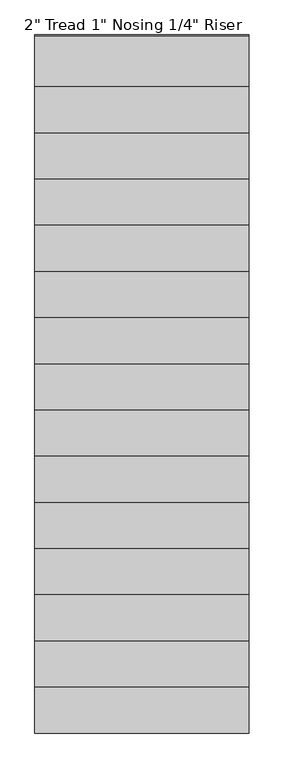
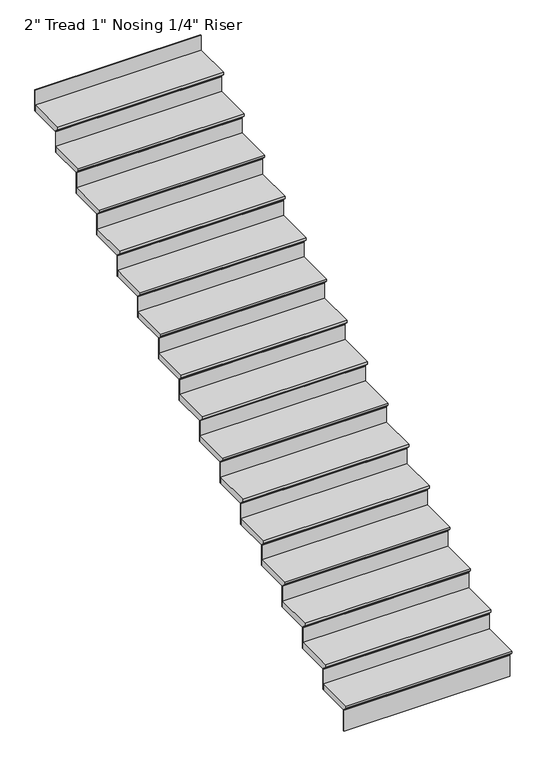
"""IFC4 building model written with IfcOpenShell, lengths in millimetres: stair flight geometry."""

from ifc_helpers import new_model, si_unit, frame, origin, place, context, project, spatial, polyline, outline, extrude, source, transform, mapped, element, save


def stair_flight_b6dccf16(model_context):
    return source(origin(), model_context, "Body", "SweptSolid", [
        extrude(outline(polyline([(2006.6, 1879.6), (2311.4, 1879.6), (2311.4, 1828.8), (2032.0, 1828.8), (2032.0, 1835.15), (2006.6, 1860.55), (2006.6, 1879.6)])), frame((17805.404894, 0.0, 0.0), z_axis=(1.0, 0.0, 0.0), x_axis=(0.0, 1.0, 0.0)), (0.0, 0.0, 1.0), 1297.6209635),
        extrude(outline(polyline([(19103.0258576, 2038.35), (19103.0258576, 2032.0), (17805.404894, 2032.0), (17805.404894, 2038.35), (19103.0258576, 2038.35)])), frame((0.0, 0.0, 1656.08), z_axis=(0.0, 0.0, 1.0), x_axis=(1.0, 0.0, 0.0)), (0.0, 0.0, 1.0), 172.72),
        extrude(outline(polyline([(19103.0258576, 2317.75), (19103.0258576, 2311.4), (17805.404894, 2311.4), (17805.404894, 2317.75), (19103.0258576, 2317.75)])), frame((0.0, 0.0, 1828.8), z_axis=(0.0, 0.0, 1.0), x_axis=(1.0, 0.0, 0.0)), (0.0, 0.0, 1.0), 172.72),
        extrude(outline(polyline([(2286.0, 2052.32), (2590.8, 2052.32), (2590.8, 2001.52), (2311.4, 2001.52), (2311.4, 2007.87), (2286.0, 2033.27), (2286.0, 2052.32)])), frame((17805.404894, 0.0, 0.0), z_axis=(1.0, 0.0, 0.0), x_axis=(0.0, 1.0, 0.0)), (0.0, 0.0, 1.0), 1297.6209635),
        extrude(outline(polyline([(19103.0258576, 2597.15), (19103.0258576, 2590.8), (17805.404894, 2590.8), (17805.404894, 2597.15), (19103.0258576, 2597.15)])), frame((0.0, 0.0, 2001.52), z_axis=(0.0, 0.0, 1.0), x_axis=(1.0, 0.0, 0.0)), (0.0, 0.0, 1.0), 172.72),
        extrude(outline(polyline([(2565.4, 2225.04), (2870.2, 2225.04), (2870.2, 2174.24), (2590.8, 2174.24), (2590.8, 2180.59), (2565.4, 2205.99), (2565.4, 2225.04)])), frame((17805.404894, 0.0, 0.0), z_axis=(1.0, 0.0, 0.0), x_axis=(0.0, 1.0, 0.0)), (0.0, 0.0, 1.0), 1297.6209635),
        extrude(outline(polyline([(19103.0258576, 2876.55), (19103.0258576, 2870.2), (17805.404894, 2870.2), (17805.404894, 2876.55), (19103.0258576, 2876.55)])), frame((0.0, 0.0, 2174.24), z_axis=(0.0, 0.0, 1.0), x_axis=(1.0, 0.0, 0.0)), (0.0, 0.0, 1.0), 172.72),
        extrude(outline(polyline([(2844.8, 2397.76), (3149.6, 2397.76), (3149.6, 2346.96), (2870.2, 2346.96), (2870.2, 2353.31), (2844.8, 2378.71), (2844.8, 2397.76)])), frame((17805.404894, 0.0, 0.0), z_axis=(1.0, 0.0, 0.0), x_axis=(0.0, 1.0, 0.0)), (0.0, 0.0, 1.0), 1297.6209635),
        extrude(outline(polyline([(19103.0258576, 3155.95), (19103.0258576, 3149.6), (17805.404894, 3149.6), (17805.404894, 3155.95), (19103.0258576, 3155.95)])), frame((0.0, 0.0, 2346.96), z_axis=(0.0, 0.0, 1.0), x_axis=(1.0, 0.0, 0.0)), (0.0, 0.0, 1.0), 172.72),
        extrude(outline(polyline([(3124.2, 2570.48), (3429.0, 2570.48), (3429.0, 2519.68), (3149.6, 2519.68), (3149.6, 2526.03), (3124.2, 2551.43), (3124.2, 2570.48)])), frame((17805.404894, 0.0, 0.0), z_axis=(1.0, 0.0, 0.0), x_axis=(0.0, 1.0, 0.0)), (0.0, 0.0, 1.0), 1297.6209635),
        extrude(outline(polyline([(19103.0258576, 3435.35), (19103.0258576, 3429.0), (17805.404894, 3429.0), (17805.404894, 3435.35), (19103.0258576, 3435.35)])), frame((0.0, 0.0, 2519.68), z_axis=(0.0, 0.0, 1.0), x_axis=(1.0, 0.0, 0.0)), (0.0, 0.0, 1.0), 172.72),
        extrude(outline(polyline([(3403.6, 2743.2), (3708.4, 2743.2), (3708.4, 2692.4), (3429.0, 2692.4), (3429.0, 2698.75), (3403.6, 2724.15), (3403.6, 2743.2)])), frame((17805.404894, 0.0, 0.0), z_axis=(1.0, 0.0, 0.0), x_axis=(0.0, 1.0, 0.0)), (0.0, 0.0, 1.0), 1297.6209635),
        extrude(outline(polyline([(19103.0258576, 3714.75), (19103.0258576, 3708.4), (17805.404894, 3708.4), (17805.404894, 3714.75), (19103.0258576, 3714.75)])), frame((0.0, 0.0, 2692.4), z_axis=(0.0, 0.0, 1.0), x_axis=(1.0, 0.0, 0.0)), (0.0, 0.0, 1.0), 172.72),
        extrude(outline(polyline([(3683.0, 2915.92), (3987.8, 2915.92), (3987.8, 2865.12), (3708.4, 2865.12), (3708.4, 2871.47), (3683.0, 2896.87), (3683.0, 2915.92)])), frame((17805.404894, 0.0, 0.0), z_axis=(1.0, 0.0, 0.0), x_axis=(0.0, 1.0, 0.0)), (0.0, 0.0, 1.0), 1297.6209635),
        extrude(outline(polyline([(19103.0258576, 3994.15), (19103.0258576, 3987.8), (17805.404894, 3987.8), (17805.404894, 3994.15), (19103.0258576, 3994.15)])), frame((0.0, 0.0, 2865.12), z_axis=(0.0, 0.0, 1.0), x_axis=(1.0, 0.0, 0.0)), (0.0, 0.0, 1.0), 172.72),
        extrude(outline(polyline([(3962.4, 3088.64), (4267.2, 3088.64), (4267.2, 3037.84), (3987.8, 3037.84), (3987.8, 3044.19), (3962.4, 3069.59), (3962.4, 3088.64)])), frame((17805.404894, 0.0, 0.0), z_axis=(1.0, 0.0, 0.0), x_axis=(0.0, 1.0, 0.0)), (0.0, 0.0, 1.0), 1297.6209635),
        extrude(outline(polyline([(19103.0258576, 4273.55), (19103.0258576, 4267.2), (17805.404894, 4267.2), (17805.404894, 4273.55), (19103.0258576, 4273.55)])), frame((0.0, 0.0, 3037.84), z_axis=(0.0, 0.0, 1.0), x_axis=(1.0, 0.0, 0.0)), (0.0, 0.0, 1.0), 172.72),
        extrude(outline(polyline([(4241.8, 3261.36), (4546.6, 3261.36), (4546.6, 3210.56), (4267.2, 3210.56), (4267.2, 3216.91), (4241.8, 3242.31), (4241.8, 3261.36)])), frame((17805.404894, 0.0, 0.0), z_axis=(1.0, 0.0, 0.0), x_axis=(0.0, 1.0, 0.0)), (0.0, 0.0, 1.0), 1297.6209635),
        extrude(outline(polyline([(19103.0258576, 4552.95), (19103.0258576, 4546.6), (17805.404894, 4546.6), (17805.404894, 4552.95), (19103.0258576, 4552.95)])), frame((0.0, 0.0, 3210.56), z_axis=(0.0, 0.0, 1.0), x_axis=(1.0, 0.0, 0.0)), (0.0, 0.0, 1.0), 172.72),
        extrude(outline(polyline([(4521.2, 3434.08), (4826.0, 3434.08), (4826.0, 3383.28), (4546.6, 3383.28), (4546.6, 3389.63), (4521.2, 3415.03), (4521.2, 3434.08)])), frame((17805.404894, 0.0, 0.0), z_axis=(1.0, 0.0, 0.0), x_axis=(0.0, 1.0, 0.0)), (0.0, 0.0, 1.0), 1297.6209635),
        extrude(outline(polyline([(19103.0258576, 4832.35), (19103.0258576, 4826.0), (17805.404894, 4826.0), (17805.404894, 4832.35), (19103.0258576, 4832.35)])), frame((0.0, 0.0, 3383.28), z_axis=(0.0, 0.0, 1.0), x_axis=(1.0, 0.0, 0.0)), (0.0, 0.0, 1.0), 172.72),
        extrude(outline(polyline([(4800.6, 3606.8), (5105.4, 3606.8), (5105.4, 3556.0), (4826.0, 3556.0), (4826.0, 3562.35), (4800.6, 3587.75), (4800.6, 3606.8)])), frame((17805.404894, 0.0, 0.0), z_axis=(1.0, 0.0, 0.0), x_axis=(0.0, 1.0, 0.0)), (0.0, 0.0, 1.0), 1297.6209635),
        extrude(outline(polyline([(19103.0258576, 5111.75), (19103.0258576, 5105.4), (17805.404894, 5105.4), (17805.404894, 5111.75), (19103.0258576, 5111.75)])), frame((0.0, 0.0, 3556.0), z_axis=(0.0, 0.0, 1.0), x_axis=(1.0, 0.0, 0.0)), (0.0, 0.0, 1.0), 172.72),
        extrude(outline(polyline([(5080.0, 3779.52), (5384.8, 3779.52), (5384.8, 3728.72), (5105.4, 3728.72), (5105.4, 3735.07), (5080.0, 3760.47), (5080.0, 3779.52)])), frame((17805.404894, 0.0, 0.0), z_axis=(1.0, 0.0, 0.0), x_axis=(0.0, 1.0, 0.0)), (0.0, 0.0, 1.0), 1297.6209635),
        extrude(outline(polyline([(19103.0258576, 5391.15), (19103.0258576, 5384.8), (17805.404894, 5384.8), (17805.404894, 5391.15), (19103.0258576, 5391.15)])), frame((0.0, 0.0, 3728.72), z_axis=(0.0, 0.0, 1.0), x_axis=(1.0, 0.0, 0.0)), (0.0, 0.0, 1.0), 172.72),
        extrude(outline(polyline([(5359.4, 3952.24), (5664.2, 3952.24), (5664.2, 3901.44), (5384.8, 3901.44), (5384.8, 3907.79), (5359.4, 3933.19), (5359.4, 3952.24)])), frame((17805.404894, 0.0, 0.0), z_axis=(1.0, 0.0, 0.0), x_axis=(0.0, 1.0, 0.0)), (0.0, 0.0, 1.0), 1297.6209635),
        extrude(outline(polyline([(19103.0258576, 5670.55), (19103.0258576, 5664.2), (17805.404894, 5664.2), (17805.404894, 5670.55), (19103.0258576, 5670.55)])), frame((0.0, 0.0, 3901.44), z_axis=(0.0, 0.0, 1.0), x_axis=(1.0, 0.0, 0.0)), (0.0, 0.0, 1.0), 172.72),
        extrude(outline(polyline([(5638.8, 4124.96), (5943.6, 4124.96), (5943.6, 4074.16), (5664.2, 4074.16), (5664.2, 4080.51), (5638.8, 4105.91), (5638.8, 4124.96)])), frame((17805.404894, 0.0, 0.0), z_axis=(1.0, 0.0, 0.0), x_axis=(0.0, 1.0, 0.0)), (0.0, 0.0, 1.0), 1297.6209635),
        extrude(outline(polyline([(19103.0258576, 5949.95), (19103.0258576, 5943.6), (17805.404894, 5943.6), (17805.404894, 5949.95), (19103.0258576, 5949.95)])), frame((0.0, 0.0, 4074.16), z_axis=(0.0, 0.0, 1.0), x_axis=(1.0, 0.0, 0.0)), (0.0, 0.0, 1.0), 172.72),
        extrude(outline(polyline([(19103.0258576, 6229.35), (19103.0258576, 6223.0), (17805.404894, 6223.0), (17805.404894, 6229.35), (19103.0258576, 6229.35)])), frame((0.0, 0.0, 4246.88), z_axis=(0.0, 0.0, 1.0), x_axis=(1.0, 0.0, 0.0)), (0.0, 0.0, 1.0), 172.72),
        extrude(outline(polyline([(5918.2, 4297.68), (6223.0, 4297.68), (6223.0, 4246.88), (5943.6, 4246.88), (5943.6, 4253.23), (5918.2, 4278.63), (5918.2, 4297.68)])), frame((17805.404894, 0.0, 0.0), z_axis=(1.0, 0.0, 0.0), x_axis=(0.0, 1.0, 0.0)), (0.0, 0.0, 1.0), 1297.6209635),
    ])


if __name__ == "__main__":
    model = new_model("IFC4")
    model_context = context("Model", 3, world=origin())
    ifc_project = project(units=[si_unit("LENGTHUNIT", "METRE", prefix="MILLI")], contexts=[model_context])
    site = spatial("IfcSite", under=ifc_project)
    building = spatial("IfcBuilding", under=site)
    placement = place(None, origin())
    stair_flight_shape = stair_flight_b6dccf16(model_context)
    element("IfcStairFlight", 1, ObjectType="2\" Tread 1\" Nosing 1/4\" Riser", at=placement, inside=building, context=model_context, shape_type="MappedRepresentation", body=[
        mapped(stair_flight_shape, transform((0.0, 0.0, 0.0), x_axis=(1.0, 0.0, 0.0), y_axis=(0.0, 1.0, 0.0), z_axis=(0.0, 0.0, 1.0))),
    ])
    save(model, "model.ifc")
